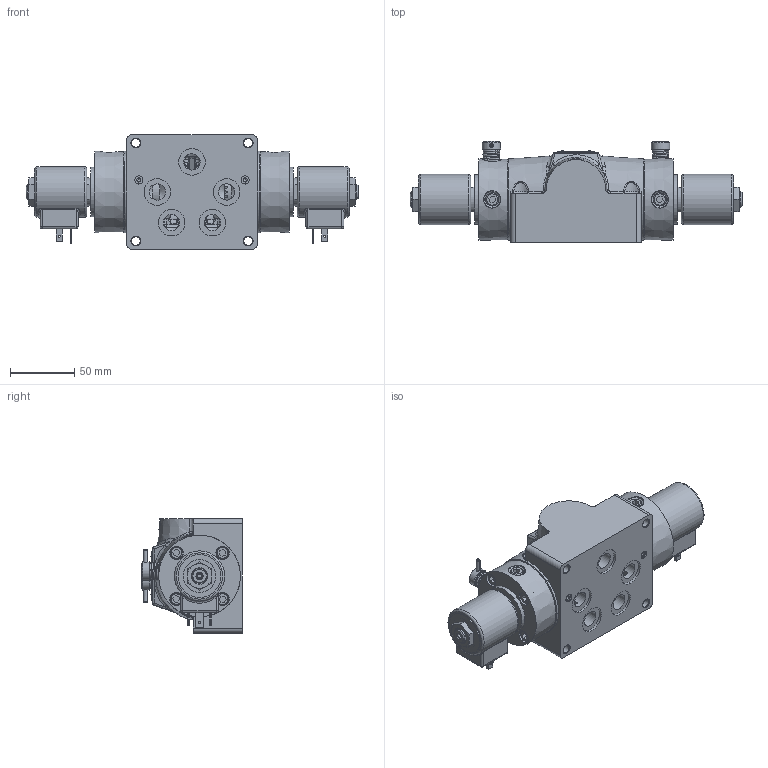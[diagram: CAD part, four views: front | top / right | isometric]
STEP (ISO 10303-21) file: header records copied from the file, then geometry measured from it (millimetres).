
FILE_DESCRIPTION(/* description */ (''),/* implementation_level */ '2;1');
FILE_NAME(/* name */ 'D:\Website Files\stp\Valves\Classic\SS\SS4PEDON.stp',/* time_stamp */ '2016-03-02T21:55:25-05:00',/* author */ ('RMcKenna'),/* organization */ (''),/* preprocessor_version */ 'ST-DEVELOPER v15.6',/* originating_system */ 'Autodesk Inventor 2015',/* authorisation */ '');
FILE_SCHEMA (('AUTOMOTIVE_DESIGN { 1 0 10303 214 3 1 1 }'));
Products named in the file (1): Part5
Bounding box: 258.04 x 78.42 x 88.9 mm (x, y, z)
Volume: 692250.7 mm3; surface area: 157519.8 mm2
Topology: 3 solids, 27 shells, 2038 faces, 4838 edges, 2998 vertices
Faces by surface type: plane 732, cylinder 415, cone 392, bspline 327, torus 146, sphere 26
Full cylindrical faces by diameter (mm): 1.041 x2, 1.321 x3, 1.6 x6, 2.07 x2, 2.261 x2, 2.35 x2, 2.381 x2, 2.54 x2, 2.778 x2, 3.048 x4, 3.175 x14, 3.302 x2, 3.962 x2, 4.978 x8, 5.639 x2, 6.35 x10, 6.629 x8, 6.934 x2, 7.144 x8, 9.144 x2, 9.462 x4, 9.474 x8, 9.525 x11, 9.83 x2, 11.328 x1, 11.43 x2, 11.836 x4, 12.598 x2, 12.7 x7, 12.827 x2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
Entity records: 71619 total; most frequent: CARTESIAN_POINT 27796, ORIENTED_EDGE 8614, DIRECTION 7843, EDGE_CURVE 4307, AXIS2_PLACEMENT_3D 3101, VERTEX_POINT 2861, EDGE_LOOP 2660, FACE_OUTER_BOUND 2037
